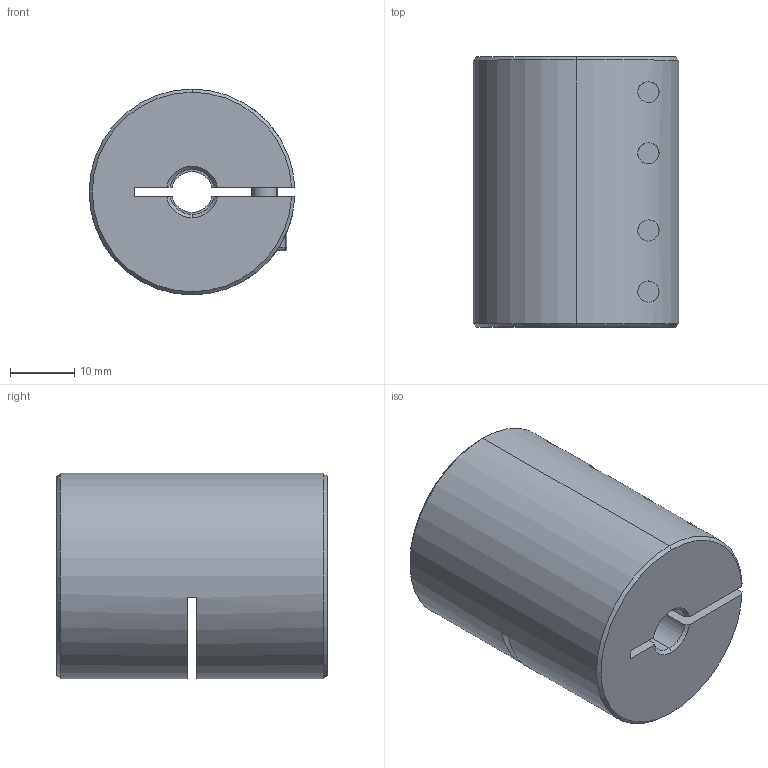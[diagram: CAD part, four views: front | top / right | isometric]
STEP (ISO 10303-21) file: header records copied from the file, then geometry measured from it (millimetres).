
FILE_DESCRIPTION (( 'STEP AP203' ), '1' );
FILE_NAME ('LL-B-D32L42-6.35-7.STEP', '2021-11-05T07:36:53', ( '' ), ( '' ), 'SwSTEP 2.0', 'SolidWorks 2018', '' );
FILE_SCHEMA (( 'CONFIG_CONTROL_DESIGN' ));
Length unit declared in the file: millimetre
Products named in the file (1): LL-B-D32L42-6.35-7
Bounding box: 31.98 x 42 x 32 mm (x, y, z)
Volume: 29728 mm3; surface area: 10272.9 mm2
Topology: 1 solids, 1 shells, 193 faces, 492 edges, 309 vertices
Faces by surface type: plane 88, cylinder 77, cone 20, torus 8
Entity records: 6376 total; most frequent: CARTESIAN_POINT 1559, DIRECTION 1037, ORIENTED_EDGE 968, EDGE_CURVE 484, AXIS2_PLACEMENT_3D 403, VERTEX_POINT 309, LINE 231, VECTOR 231
